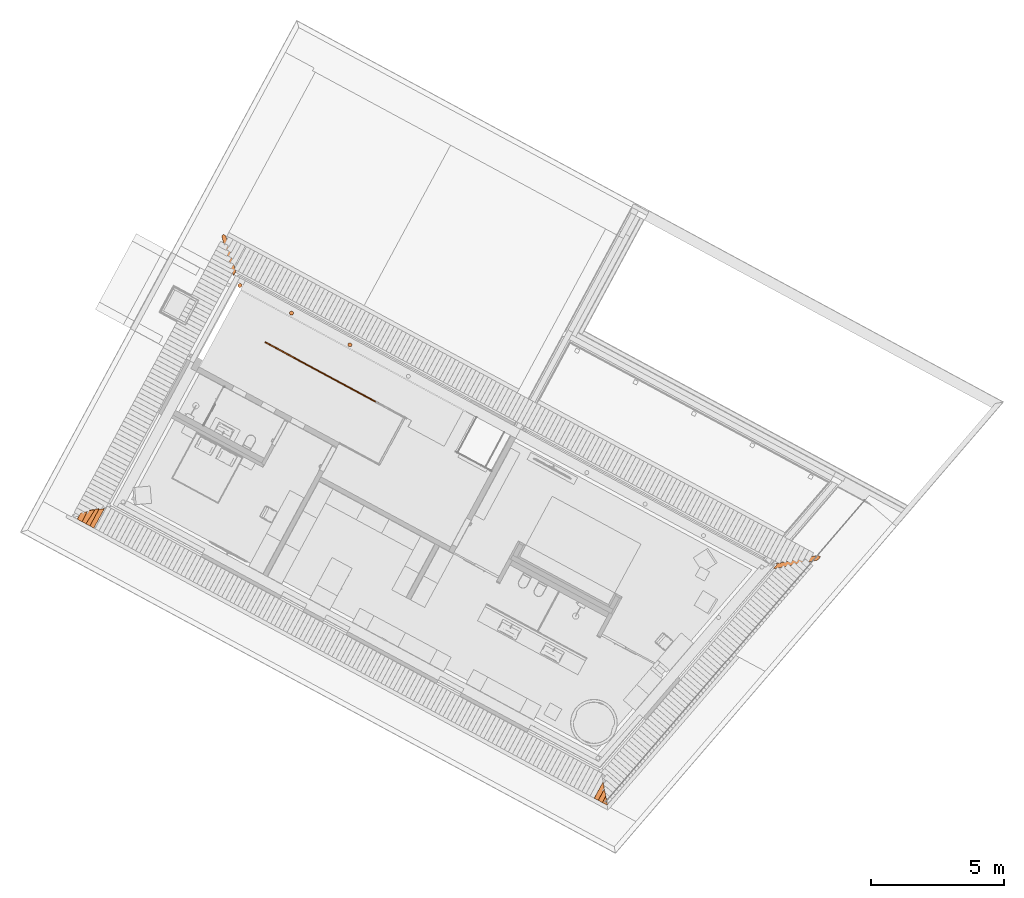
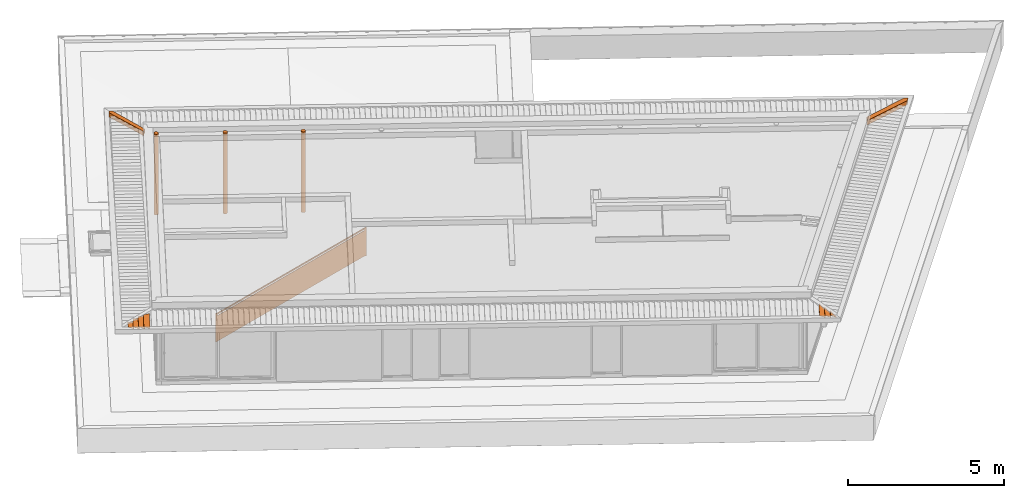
# One storey, part 48 of 48: 13 proxies.
"""IFC2X3 building model written with IfcOpenShell, lengths in metres."""

from ifc_helpers import new_model, entity, si_unit, converted_unit, derived_unit, money_unit, direction, frame, origin_with_axes, place, context, subcontext, project, spatial, faceted_brep, material, material_list, type_object, element, save


model = new_model("IFC2X3")

# Units and contexts
model_context = context("Model", 3, precision=1e-05, world=origin_with_axes(), true_north=direction((0.0, 1.0)))
body_context = subcontext(model_context, "Body", "Model", "MODEL_VIEW")
ifc_project = project(units=[si_unit("LENGTHUNIT", "METRE"), si_unit("AREAUNIT", "SQUARE_METRE"), si_unit("VOLUMEUNIT", "CUBIC_METRE"), converted_unit("PLANEANGLEUNIT", "DEGREE", entity("IfcPlaneAngleMeasure", 0.0174532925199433), si_unit("PLANEANGLEUNIT", "RADIAN"), dimensions=[0, 0, 0, 0, 0, 0, 0]), money_unit("EUR"), converted_unit("TIMEUNIT", "Year", entity("IfcTimeMeasure", 31556926.0), si_unit("TIMEUNIT", "SECOND"), dimensions=[0, 0, 1, 0, 0, 0, 0]), si_unit("MASSUNIT", "GRAM", prefix="KILO"), si_unit("THERMODYNAMICTEMPERATUREUNIT", "DEGREE_CELSIUS"), si_unit("LUMINOUSINTENSITYUNIT", "LUMEN"), si_unit("ENERGYUNIT", "JOULE", prefix="MEGA"), derived_unit("THERMALCONDUCTANCEUNIT", [(si_unit("POWERUNIT", "WATT"), 1), (si_unit("LENGTHUNIT", "METRE"), -1), (si_unit("THERMODYNAMICTEMPERATUREUNIT", "KELVIN"), -1)]), derived_unit("SPECIFICHEATCAPACITYUNIT", [(si_unit("ENERGYUNIT", "JOULE"), 1), (si_unit("MASSUNIT", "GRAM", prefix="KILO"), -1), (si_unit("THERMODYNAMICTEMPERATUREUNIT", "KELVIN"), -1)]), derived_unit("MASSDENSITYUNIT", [(si_unit("MASSUNIT", "GRAM", prefix="KILO"), 1), (si_unit("VOLUMEUNIT", "CUBIC_METRE"), -1)])], contexts=[model_context])

# Site, building, storey
site_placement = place(None, frame((-3.949935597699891, 1.740105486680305, 0.0), z_axis=(0.0, 0.0, 1.0), x_axis=(0.8799804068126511, -0.475009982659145, 0.0)))
site = spatial("IfcSite", under=ifc_project, at=site_placement, Name="Gelände", CompositionType="ELEMENT")
building_placement = place(site_placement, origin_with_axes())
building = spatial("IfcBuilding", under=site, at=building_placement, Name="Gebäude", CompositionType="ELEMENT")
storey_placement = place(building_placement, frame((0.0, 0.0, 4.55), z_axis=(0.0, 0.0, 1.0), x_axis=(1.0, 0.0, 0.0)))
storey = spatial("IfcBuildingStorey", under=building, at=storey_placement, Name="Staffelgeschoss", CompositionType="ELEMENT", Elevation=4.55)

# Proxies
ifc_material_1 = material(Name="ALLGEMEIN - BAUTEIL")
building_element_proxy_type_1 = type_object("IfcBuildingElementProxyType", Name="ALLGEMEIN - BAUTEIL", PredefinedType="NOTDEFINED")
proxy_1_placement = place(storey_placement, frame((4.28713815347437, 1.09692488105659, 2.903466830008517), z_axis=(0.3575193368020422, 0.0, 0.933905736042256), x_axis=(0.933905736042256, 0.0, -0.3575193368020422)))
element("IfcBuildingElementProxy", 1, at=proxy_1_placement, inside=storey, type_object=building_element_proxy_type_1, material=ifc_material_1, Name="Morph-037", context=body_context, shape_type="Brep", body=[
    faceted_brep([(-0.002249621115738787, -0.6982773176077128, 0.009146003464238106), (0.2133564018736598, -0.5370370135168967, -0.000635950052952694), (0.2148913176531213, -0.9669323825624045, 0.0), (0.2133564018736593, -0.5370370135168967, 0.009364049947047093), (0.2148913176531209, -0.9669323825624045, 0.01000000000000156), (0.0, -0.9669000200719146, 0.0), (0.0, -0.9669000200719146, 0.009999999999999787)], [[[0, 1, 2]], [[1, 0, 3]], [[1, 3, 4, 2]], [[5, 0, 2]], [[0, 4, 3]], [[5, 2, 4, 6]], [[0, 5, 6]], [[0, 6, 4]]]),
])
proxy_2_placement = place(storey_placement, frame((4.456730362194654, 1.096952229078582, 2.903466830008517), z_axis=(0.3575193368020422, 0.0, 0.933905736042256), x_axis=(0.933905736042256, 0.0, -0.3575193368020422)))
element("IfcBuildingElementProxy", 2, at=proxy_2_placement, inside=storey, type_object=building_element_proxy_type_1, material=ifc_material_1, Name="Morph-037", context=body_context, shape_type="Brep", body=[
    faceted_brep([(-0.001477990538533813, -0.5084069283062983, 0.009441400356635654), (0.2141280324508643, -0.3471666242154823, -0.000340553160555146), (0.2148913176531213, -0.9669323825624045, 0.0), (0.2571207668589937, -0.3471627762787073, 0.02611799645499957), (0.0, -0.9669000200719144, 0.0), (0.2148913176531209, -0.9669323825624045, 0.01000000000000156), (0.0, -0.9669000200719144, 0.009999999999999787)], [[[0, 1, 2]], [[1, 0, 3]], [[2, 1, 3]], [[4, 0, 2]], [[0, 5, 3]], [[5, 2, 3]], [[0, 4, 6]], [[4, 2, 5, 6]], [[0, 6, 5]]]),
])
proxy_3_placement = place(storey_placement, frame((4.626322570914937, 1.096952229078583, 2.903466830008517), z_axis=(0.3575193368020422, 0.0, 0.933905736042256), x_axis=(0.933905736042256, 0.0, -0.3575193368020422)))
element("IfcBuildingElementProxy", 3, at=proxy_3_placement, inside=storey, type_object=building_element_proxy_type_1, material=ifc_material_1, Name="Morph-037", context=body_context, shape_type="Brep", body=[
    faceted_brep([(-0.0009645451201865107, -0.3820665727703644, 0.009637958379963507), (0.2146414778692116, -0.2208262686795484, -0.000143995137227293), (0.2148913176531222, -0.9669323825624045, 0.0), (0.2146414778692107, -0.2208262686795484, 0.009856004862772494), (0.2148913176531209, -0.9669323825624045, 0.009999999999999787), (0.0, -0.9669000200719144, 0.0), (0.0, -0.9669000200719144, 0.009999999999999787)], [[[0, 1, 2]], [[1, 0, 3]], [[1, 3, 4, 2]], [[5, 0, 2]], [[0, 4, 3]], [[5, 2, 4, 6]], [[0, 5, 6]], [[0, 6, 4]]]),
])
proxy_4_placement = place(storey_placement, frame((4.79591477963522, 1.096924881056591, 2.903466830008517), z_axis=(0.3575193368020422, 0.0, 0.933905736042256), x_axis=(0.933905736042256, 0.0, -0.3575193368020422)))
element("IfcBuildingElementProxy", 4, at=proxy_4_placement, inside=storey, type_object=building_element_proxy_type_1, material=ifc_material_1, Name="Morph-037", context=body_context, shape_type="Brep", body=[
    faceted_brep([(-0.0005884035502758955, -0.289511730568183, 0.009781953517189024), (0.2148913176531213, -0.9669323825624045, 0.0), (0.0, -0.9669000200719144, 0.0), (0.2150176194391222, -0.128271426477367, 0.0), (0.21489131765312, -0.9669323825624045, 0.009999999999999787), (0.0, -0.9669000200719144, 0.00999999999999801), (0.2150176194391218, -0.128271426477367, 0.009999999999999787)], [[[0, 1, 2]], [[1, 0, 3]], [[2, 1, 4, 5]], [[0, 2, 5]], [[3, 0, 6]], [[4, 1, 3, 6]], [[0, 5, 4]], [[0, 4, 6]]]),
])
proxy_5_placement = place(storey_placement, frame((26.40969685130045, 1.096892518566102, 2.903466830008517), z_axis=(0.3575193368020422, 0.0, 0.933905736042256), x_axis=(0.933905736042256, 0.0, -0.3575193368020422)))
element("IfcBuildingElementProxy", 5, at=proxy_5_placement, inside=storey, type_object=building_element_proxy_type_1, material=ifc_material_1, Name="Morph-037", context=body_context, shape_type="Brep", body=[
    faceted_brep([(0.0, -0.2637647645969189, 0.01000000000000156), (0.0, -0.9669000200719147, 0.01000000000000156), (0.2149690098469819, -0.5171427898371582, 0.00997399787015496), (0.003338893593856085, -0.2637647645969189, 0.001278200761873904), (0.2148913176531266, -0.9669323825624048, 0.01000000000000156), (0.2149695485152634, -0.5130417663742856, -2.579591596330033e-05), (0.0, -0.9669000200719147, 0.0), (0.2148913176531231, -0.9669323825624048, 0.0)], [[[0, 1, 2]], [[1, 0, 3]], [[1, 4, 2]], [[0, 2, 5]], [[3, 0, 5]], [[6, 1, 3]], [[1, 6, 7, 4]], [[4, 7, 5, 2]], [[6, 3, 5]], [[7, 6, 5]]]),
])
proxy_6_placement = place(storey_placement, frame((26.58465556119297, 1.096892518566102, 2.903466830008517), z_axis=(0.3575193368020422, 0.0, 0.933905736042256), x_axis=(0.933905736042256, 0.0, -0.3575193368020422)))
element("IfcBuildingElementProxy", 6, at=proxy_6_placement, inside=storey, type_object=building_element_proxy_type_1, material=ifc_material_1, Name="Morph-037", context=body_context, shape_type="Brep", body=[
    faceted_brep([(-0.003338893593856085, -0.4834500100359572, 0.008721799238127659), (0.0, -0.9669000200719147, 0.01000000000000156), (0.2149426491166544, -0.717833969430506, 0.009963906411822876), (0.0, -0.4834500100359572, 0.0), (0.2148913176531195, -0.9669323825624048, 0.01000000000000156), (0.2149426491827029, -0.7178334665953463, -3.609356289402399e-05), (0.0, -0.9669000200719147, 0.0), (0.2148913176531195, -0.9669323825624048, 0.0)], [[[0, 1, 2]], [[1, 0, 3]], [[1, 4, 2]], [[0, 2, 5]], [[3, 0, 5]], [[6, 1, 3]], [[1, 6, 7, 4]], [[2, 4, 5]], [[6, 3, 5]], [[7, 6, 5]], [[4, 7, 5]]]),
])
proxy_7_placement = place(storey_placement, frame((26.75961427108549, 1.096892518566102, 2.903466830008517), z_axis=(0.3575193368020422, 0.0, 0.933905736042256), x_axis=(0.933905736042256, 0.0, -0.3575193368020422)))
element("IfcBuildingElementProxy", 7, at=proxy_7_placement, inside=storey, type_object=building_element_proxy_type_1, material=ifc_material_1, Name="Morph-037", context=body_context, shape_type="Brep", body=[
    faceted_brep([(0.0, -0.6904938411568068, 0.00999999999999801), (0.0, -0.9669000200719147, 0.00999999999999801), (0.2149137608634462, -0.9377678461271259, 0.009952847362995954), (0.0, -0.9669000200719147, 0.0), (0.0, -0.6904938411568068, 0.0), (0.2148913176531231, -0.9669323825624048, 0.01000000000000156), (0.2149137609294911, -0.9377673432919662, -4.715261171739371e-05), (0.2148913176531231, -0.9669323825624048, 0.0)], [[[0, 1, 2]], [[3, 1, 0, 4]], [[1, 5, 2]], [[0, 2, 6]], [[1, 3, 7, 5]], [[4, 0, 6]], [[3, 4, 6]], [[2, 5, 6]], [[7, 3, 6]], [[5, 7, 6]]]),
])
ifc_material_2 = material(Name="Metall, Stahl lackiert")
building_element_proxy_type_2 = type_object("IfcBuildingElementProxyType", Name="Metall, Stahl lackiert D152", PredefinedType="NOTDEFINED")
proxy_8_placement = place(storey_placement, frame((10.20533791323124, 10.78779359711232, -0.1499999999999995), z_axis=(0.0, 0.0, 1.0), x_axis=(1.0, 0.0, 0.0)))
element("IfcBuildingElementProxy", 8, at=proxy_8_placement, inside=storey, type_object=building_element_proxy_type_2, material=ifc_material_2, Name="Stütze-003", context=body_context, shape_type="Brep", body=[
    faceted_brep([(-0.07600000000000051, 0.0, 3.154000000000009), (-0.07600000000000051, 0.0, 0.0), (-0.07228029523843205, -0.02348529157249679, 0.0), (-0.07228029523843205, -0.02348529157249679, 3.154000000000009), (-0.07228029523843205, 0.02348529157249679, 3.154000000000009), (-0.07228029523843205, 0.02348529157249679, 0.0), (-0.06148529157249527, 0.04467167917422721, 0.0), (-0.04467167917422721, 0.06148529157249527, 0.0), (-0.02348529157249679, 0.07228029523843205, 0.0), (0.0, 0.07600000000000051, 0.0), (0.02348529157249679, 0.07228029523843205, 0.0), (0.04467167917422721, 0.06148529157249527, 0.0), (0.06148529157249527, 0.04467167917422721, 0.0), (0.07228029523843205, 0.02348529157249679, 0.0), (0.07600000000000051, 0.0, 0.0), (0.07228029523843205, -0.02348529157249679, 0.0), (0.06148529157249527, -0.04467167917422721, 0.0), (0.04467167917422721, -0.06148529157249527, 0.0), (0.02348529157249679, -0.07228029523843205, 0.0), (0.0, -0.07600000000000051, 0.0), (-0.02348529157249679, -0.07228029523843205, 0.0), (-0.04467167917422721, -0.06148529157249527, 0.0), (-0.06148529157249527, -0.04467167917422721, 0.0), (-0.06148529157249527, -0.04467167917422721, 3.154000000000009), (-0.04467167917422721, -0.06148529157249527, 3.154000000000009), (-0.02348529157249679, -0.07228029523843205, 3.154000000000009), (0.0, -0.07600000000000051, 3.154000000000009), (0.02348529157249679, -0.07228029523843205, 3.154000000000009), (0.04467167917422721, -0.06148529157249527, 3.154000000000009), (0.06148529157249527, -0.04467167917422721, 3.154000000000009), (0.07228029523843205, -0.02348529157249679, 3.154000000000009), (0.07600000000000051, 0.0, 3.154000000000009), (0.07228029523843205, 0.02348529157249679, 3.154000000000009), (0.06148529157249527, 0.04467167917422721, 3.154000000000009), (0.04467167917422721, 0.06148529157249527, 3.154000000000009), (0.02348529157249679, 0.07228029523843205, 3.154000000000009), (0.0, 0.07600000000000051, 3.154000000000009), (-0.02348529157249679, 0.07228029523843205, 3.154000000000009), (-0.04467167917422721, 0.06148529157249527, 3.154000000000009), (-0.06148529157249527, 0.04467167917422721, 3.154000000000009)], [[[0, 1, 2, 3]], [[4, 5, 1, 0]], [[2, 1, 5, 6, 7, 8, 9, 10, 11, 12, 13, 14, 15, 16, 17, 18, 19, 20, 21, 22]], [[3, 2, 22, 23]], [[4, 0, 3, 23, 24, 25, 26, 27, 28, 29, 30, 31, 32, 33, 34, 35, 36, 37, 38, 39]], [[39, 6, 5, 4]], [[38, 7, 6, 39]], [[37, 8, 7, 38]], [[36, 9, 8, 37]], [[35, 10, 9, 36]], [[34, 11, 10, 35]], [[33, 12, 11, 34]], [[32, 13, 12, 33]], [[31, 14, 13, 32]], [[30, 15, 14, 31]], [[29, 16, 15, 30]], [[28, 17, 16, 29]], [[27, 18, 17, 28]], [[26, 19, 18, 27]], [[25, 20, 19, 26]], [[24, 21, 20, 25]], [[23, 22, 21, 24]]]),
])
proxy_9_placement = place(storey_placement, frame((7.70533791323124, 10.78779359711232, -0.1499999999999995), z_axis=(0.0, 0.0, 1.0), x_axis=(1.0, 0.0, 0.0)))
element("IfcBuildingElementProxy", 9, at=proxy_9_placement, inside=storey, type_object=building_element_proxy_type_2, material=ifc_material_2, Name="Stütze-003", context=body_context, shape_type="Brep", body=[
    faceted_brep([(-0.07599999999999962, 0.0, 3.154000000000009), (-0.07599999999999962, 0.0, 0.0), (-0.07228029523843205, -0.02348529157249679, 0.0), (-0.07228029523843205, -0.02348529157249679, 3.154000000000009), (-0.07228029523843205, 0.02348529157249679, 3.154000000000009), (-0.07228029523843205, 0.02348529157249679, 0.0), (-0.06148529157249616, 0.04467167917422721, 0.0), (-0.0446716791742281, 0.06148529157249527, 0.0), (-0.0234852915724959, 0.07228029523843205, 0.0), (0.0, 0.07600000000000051, 0.0), (0.0234852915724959, 0.07228029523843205, 0.0), (0.0446716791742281, 0.06148529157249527, 0.0), (0.06148529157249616, 0.04467167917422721, 0.0), (0.07228029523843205, 0.02348529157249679, 0.0), (0.07599999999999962, 0.0, 0.0), (0.07228029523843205, -0.02348529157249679, 0.0), (0.06148529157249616, -0.04467167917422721, 0.0), (0.0446716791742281, -0.06148529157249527, 0.0), (0.0234852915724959, -0.07228029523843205, 0.0), (0.0, -0.07600000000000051, 0.0), (-0.0234852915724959, -0.07228029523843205, 0.0), (-0.0446716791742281, -0.06148529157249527, 0.0), (-0.06148529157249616, -0.04467167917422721, 0.0), (-0.06148529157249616, -0.04467167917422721, 3.154000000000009), (-0.0446716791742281, -0.06148529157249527, 3.154000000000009), (-0.0234852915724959, -0.07228029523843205, 3.154000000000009), (0.0, -0.07600000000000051, 3.154000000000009), (0.0234852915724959, -0.07228029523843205, 3.154000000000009), (0.0446716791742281, -0.06148529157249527, 3.154000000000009), (0.06148529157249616, -0.04467167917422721, 3.154000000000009), (0.07228029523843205, -0.02348529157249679, 3.154000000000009), (0.07599999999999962, 0.0, 3.154000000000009), (0.07228029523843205, 0.02348529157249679, 3.154000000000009), (0.06148529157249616, 0.04467167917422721, 3.154000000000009), (0.0446716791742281, 0.06148529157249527, 3.154000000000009), (0.0234852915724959, 0.07228029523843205, 3.154000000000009), (0.0, 0.07600000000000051, 3.154000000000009), (-0.0234852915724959, 0.07228029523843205, 3.154000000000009), (-0.0446716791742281, 0.06148529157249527, 3.154000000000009), (-0.06148529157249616, 0.04467167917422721, 3.154000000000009)], [[[0, 1, 2, 3]], [[4, 5, 1, 0]], [[2, 1, 5, 6, 7, 8, 9, 10, 11, 12, 13, 14, 15, 16, 17, 18, 19, 20, 21, 22]], [[3, 2, 22, 23]], [[4, 0, 3, 23, 24, 25, 26, 27, 28, 29, 30, 31, 32, 33, 34, 35, 36, 37, 38, 39]], [[39, 6, 5, 4]], [[38, 7, 6, 39]], [[37, 8, 7, 38]], [[36, 9, 8, 37]], [[35, 10, 9, 36]], [[34, 11, 10, 35]], [[33, 12, 11, 34]], [[32, 13, 12, 33]], [[31, 14, 13, 32]], [[30, 15, 14, 31]], [[29, 16, 15, 30]], [[28, 17, 16, 29]], [[27, 18, 17, 28]], [[26, 19, 18, 27]], [[25, 20, 19, 26]], [[24, 21, 20, 25]], [[23, 22, 21, 24]]]),
])
proxy_10_placement = place(storey_placement, frame((5.497480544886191, 10.78779359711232, -0.1499999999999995), z_axis=(0.0, 0.0, 1.0), x_axis=(1.0, 0.0, 0.0)))
element("IfcBuildingElementProxy", 10, at=proxy_10_placement, inside=storey, type_object=building_element_proxy_type_2, material=ifc_material_2, Name="Stütze-003", context=body_context, shape_type="Brep", body=[
    faceted_brep([(-0.07599999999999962, 0.0, 3.154000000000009), (-0.07599999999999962, 0.0, 0.0), (-0.07228029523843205, -0.02348529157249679, 0.0), (-0.07228029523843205, -0.02348529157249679, 3.154000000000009), (-0.07228029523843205, 0.02348529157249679, 3.154000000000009), (-0.07228029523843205, 0.02348529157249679, 0.0), (-0.06148529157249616, 0.04467167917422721, 0.0), (-0.0446716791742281, 0.06148529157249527, 0.0), (-0.0234852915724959, 0.07228029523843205, 0.0), (0.0, 0.07600000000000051, 0.0), (0.0234852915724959, 0.07228029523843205, 0.0), (0.0446716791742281, 0.06148529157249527, 0.0), (0.06148529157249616, 0.04467167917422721, 0.0), (0.07228029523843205, 0.02348529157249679, 0.0), (0.07599999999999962, 0.0, 0.0), (0.07228029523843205, -0.02348529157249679, 0.0), (0.06148529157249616, -0.04467167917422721, 0.0), (0.0446716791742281, -0.06148529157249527, 0.0), (0.0234852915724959, -0.07228029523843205, 0.0), (0.0, -0.07600000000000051, 0.0), (-0.0234852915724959, -0.07228029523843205, 0.0), (-0.0446716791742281, -0.06148529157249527, 0.0), (-0.06148529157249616, -0.04467167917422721, 0.0), (-0.06148529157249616, -0.04467167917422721, 3.154000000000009), (-0.0446716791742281, -0.06148529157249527, 3.154000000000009), (-0.0234852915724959, -0.07228029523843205, 3.154000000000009), (0.0, -0.07600000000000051, 3.154000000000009), (0.0234852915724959, -0.07228029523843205, 3.154000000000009), (0.0446716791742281, -0.06148529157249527, 3.154000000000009), (0.06148529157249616, -0.04467167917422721, 3.154000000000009), (0.07228029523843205, -0.02348529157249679, 3.154000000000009), (0.07599999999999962, 0.0, 3.154000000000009), (0.07228029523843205, 0.02348529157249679, 3.154000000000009), (0.06148529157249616, 0.04467167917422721, 3.154000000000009), (0.0446716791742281, 0.06148529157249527, 3.154000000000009), (0.0234852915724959, 0.07228029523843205, 3.154000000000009), (0.0, 0.07600000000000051, 3.154000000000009), (-0.0234852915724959, 0.07228029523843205, 3.154000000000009), (-0.0446716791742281, 0.06148529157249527, 3.154000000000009), (-0.06148529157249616, 0.04467167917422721, 3.154000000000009)], [[[0, 1, 2, 3]], [[4, 5, 1, 0]], [[2, 1, 5, 6, 7, 8, 9, 10, 11, 12, 13, 14, 15, 16, 17, 18, 19, 20, 21, 22]], [[3, 2, 22, 23]], [[4, 0, 3, 23, 24, 25, 26, 27, 28, 29, 30, 31, 32, 33, 34, 35, 36, 37, 38, 39]], [[39, 6, 5, 4]], [[38, 7, 6, 39]], [[37, 8, 7, 38]], [[36, 9, 8, 37]], [[35, 10, 9, 36]], [[34, 11, 10, 35]], [[33, 12, 11, 34]], [[32, 13, 12, 33]], [[31, 14, 13, 32]], [[30, 15, 14, 31]], [[29, 16, 15, 30]], [[28, 17, 16, 29]], [[27, 18, 17, 28]], [[26, 19, 18, 27]], [[25, 20, 19, 26]], [[24, 21, 20, 25]], [[23, 22, 21, 24]]]),
])
ifc_material_3 = material(Name="Glas, Normalglas-50% durchlässig")
ifc_material_list_1 = material_list([ifc_material_2, ifc_material_2, ifc_material_2, ifc_material_2, ifc_material_2, ifc_material_3])
building_element_proxy_type_3 = type_object("IfcBuildingElementProxyType", Name="Geländerart", PredefinedType="NOTDEFINED")
proxy_11_placement = place(storey_placement, frame((7.1514093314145, 9.357791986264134, -4.170822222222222), z_axis=(0.0, 0.0, 1.0), x_axis=(1.0, 0.0, 0.0)))
element("IfcBuildingElementProxy", 11, at=proxy_11_placement, inside=storey, type_object=building_element_proxy_type_3, material=ifc_material_list_1, Name="Geländer-005", context=body_context, shape_type="Brep", body=[
    faceted_brep([(0.2685803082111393, -0.01999975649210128, 0.01372528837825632), (0.2685798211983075, 0.02000024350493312, 0.01372528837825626), (0.2685798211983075, 0.02000024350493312, 1.113725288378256), (0.2685803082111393, -0.01999975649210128, 1.113725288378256), (0.2285803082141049, -0.02000024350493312, -0.01372528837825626), (0.2285798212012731, 0.01999975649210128, -0.01372528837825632), (0.2285798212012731, 0.01999975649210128, 1.086274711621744), (0.2285803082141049, -0.02000024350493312, 1.086274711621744)], [[[0, 1, 2, 3]], [[0, 4, 5, 1]], [[1, 5, 6, 2]], [[3, 2, 6, 7]], [[4, 0, 3, 7]], [[5, 4, 7, 6]]]),
    faceted_brep([(0.2485798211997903, 0.01999999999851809, 1.1), (0.2609850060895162, 0.02000015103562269, 1.06), (0.2385798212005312, 0.01999987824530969, 1.06), (0.2385798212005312, 0.01999987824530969, 0.0), (0.1985798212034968, 0.01999939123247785, 0.0), (0.1985798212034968, 0.01999939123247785, 1.1), (0.2485803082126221, -0.01999999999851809, 1.1), (0.2609854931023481, -0.01999984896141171, 1.06), (0.2385803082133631, -0.02000012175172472, 1.06), (0.2385803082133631, -0.02000012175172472, 0.0), (0.1985803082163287, -0.02000060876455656, 0.0), (0.1985803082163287, -0.02000060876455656, 1.1)], [[[0, 1, 2, 3, 4, 5]], [[0, 6, 7, 1]], [[1, 7, 8, 2]], [[2, 8, 9, 3]], [[4, 3, 9, 10]], [[11, 5, 4, 10]], [[6, 0, 5, 11]], [[7, 6, 11, 10, 9, 8]]]),
    faceted_brep([(5.005562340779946, -0.01994208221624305, 3.264547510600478), (5.005561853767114, 0.02005791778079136, 3.264547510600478), (5.005561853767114, 0.02005791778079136, 4.364547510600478), (5.005562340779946, -0.01994208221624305, 4.364547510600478), (4.965562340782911, -0.01994256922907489, 3.237096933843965), (4.96556185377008, 0.02005743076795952, 3.237096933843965), (4.96556185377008, 0.02005743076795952, 4.337096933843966), (4.965562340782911, -0.01994256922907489, 4.337096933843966)], [[[0, 1, 2, 3]], [[0, 4, 5, 1]], [[1, 5, 6, 2]], [[3, 2, 6, 7]], [[4, 0, 3, 7]], [[5, 4, 7, 6]]]),
    faceted_brep([(4.98556234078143, -0.01994232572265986, 4.350822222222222), (4.997967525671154, -0.01994217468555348, 4.310822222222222), (4.995562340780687, -0.01994220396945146, 4.310822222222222), (4.995562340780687, -0.01994220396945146, 3.250822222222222), (5.035562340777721, -0.01994171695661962, 3.250822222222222), (5.035562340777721, -0.01994171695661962, 4.350822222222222), (4.985561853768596, 0.02005767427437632, 4.350822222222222), (4.997967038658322, 0.02005782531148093, 4.310822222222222), (4.995561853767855, 0.02005779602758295, 4.310822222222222), (4.995561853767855, 0.02005779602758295, 3.250822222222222), (5.035561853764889, 0.02005828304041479, 3.250822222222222), (5.035561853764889, 0.02005828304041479, 4.350822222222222)], [[[0, 1, 2, 3, 4, 5]], [[0, 6, 7, 1]], [[1, 7, 8, 2]], [[2, 8, 9, 3]], [[4, 3, 9, 10]], [[11, 5, 4, 10]], [[6, 0, 5, 11]], [[7, 6, 11, 10, 9, 8]]]),
    faceted_brep([(0.2485803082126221, -0.01999999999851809, 1.1), (0.2609854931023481, -0.01999984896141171, 1.06), (4.997967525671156, -0.01994217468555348, 4.310822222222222), (4.98556234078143, -0.01994232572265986, 4.350822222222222), (0.2485798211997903, 0.01999999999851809, 1.1), (0.2609850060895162, 0.02000015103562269, 1.06), (4.997967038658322, 0.02005782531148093, 4.310822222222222), (4.985561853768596, 0.02005767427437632, 4.350822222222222)], [[[0, 1, 2, 3]], [[0, 4, 5, 1]], [[1, 5, 6, 2]], [[3, 2, 6, 7]], [[4, 0, 3, 7]], [[5, 4, 7, 6]]]),
    faceted_brep([(4.985561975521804, 0.01005767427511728, 3.250822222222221), (0.2485799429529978, 0.009999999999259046, 0.0), (0.2485799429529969, 0.009999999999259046, 0.9999999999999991), (4.985561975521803, 0.01005767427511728, 4.250822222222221), (0.2485801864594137, -0.009999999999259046, 0.0), (4.985562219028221, -0.009942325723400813, 3.250822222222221), (0.2485801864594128, -0.009999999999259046, 0.9999999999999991), (4.985562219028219, -0.009942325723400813, 4.250822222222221)], [[[0, 1, 2, 3]], [[4, 1, 0, 5]], [[6, 2, 1, 4]], [[3, 2, 6, 7]], [[0, 3, 7, 5]], [[6, 4, 5, 7]]]),
])
ifc_material_4 = material(Name="Beton, Leichtbeton")
ifc_material_5 = material(Name="Kleber")
ifc_material_6 = material(Name="Estrich")
ifc_material_7 = material(Name="Dämmung, hart EPS")
ifc_material_list_2 = material_list([ifc_material_4, ifc_material_5, ifc_material_6, ifc_material_7])
building_element_proxy_type_4 = type_object("IfcBuildingElementProxyType", Name="BO | Dämmung 8+Folie+Estrich 7+Fliese 0,5 | 16cm 170", PredefinedType="NOTDEFINED")
proxy_12_placement = place(storey_placement, frame((28.23115328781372, 11.14280060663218, 2.75), z_axis=(0.0, 0.0, 1.0), x_axis=(1.0, 0.0, 0.0)))
element("IfcBuildingElementProxy", 12, at=proxy_12_placement, inside=storey, type_object=building_element_proxy_type_4, material=ifc_material_list_2, Name="Decke055", context=body_context, shape_type="Brep", body=[
    faceted_brep([(0.05821938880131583, 0.0, 0.1600000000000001), (0.05821938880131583, 0.0, 0.1699999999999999), (0.0, 0.0, 0.1699999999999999), (0.0, 0.0, 0.1600000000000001), (0.01235594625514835, -0.2099893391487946, 0.1600000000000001), (0.01235594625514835, -0.2099893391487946, 0.1699999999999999), (1.329367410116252, 0.8777926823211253, 0.1699999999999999), (1.364410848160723, 1.038242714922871, 0.1699999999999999), (1.243079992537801, 1.038242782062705, 0.1699999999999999), (1.243079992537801, 1.038242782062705, 0.1600000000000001), (1.364410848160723, 1.038242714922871, 0.1600000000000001), (1.329367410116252, 0.8777926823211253, 0.1600000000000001)], [[[0, 1, 2, 3]], [[4, 5, 1, 0]], [[2, 1, 5, 6, 7, 8]], [[3, 2, 8, 9]], [[3, 9, 10, 11, 4, 0]], [[11, 6, 5, 4]], [[10, 7, 6, 11]], [[9, 8, 7, 10]]]),
    faceted_brep([(0.05821938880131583, 0.0, 0.1500000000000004), (0.05821938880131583, 0.0, 0.1600000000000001), (0.0, 0.0, 0.1600000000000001), (0.0, 0.0, 0.1500000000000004), (0.01235594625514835, -0.2099893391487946, 0.1500000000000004), (0.01235594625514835, -0.2099893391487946, 0.1600000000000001), (1.329367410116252, 0.8777926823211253, 0.1600000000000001), (1.364410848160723, 1.038242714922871, 0.1600000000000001), (1.243079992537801, 1.038242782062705, 0.1600000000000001), (1.243079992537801, 1.038242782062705, 0.1500000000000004), (1.364410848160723, 1.038242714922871, 0.1500000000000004), (1.329367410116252, 0.8777926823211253, 0.1500000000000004)], [[[0, 1, 2, 3]], [[4, 5, 1, 0]], [[2, 1, 5, 6, 7, 8]], [[3, 2, 8, 9]], [[3, 9, 10, 11, 4, 0]], [[11, 6, 5, 4]], [[10, 7, 6, 11]], [[9, 8, 7, 10]]]),
    faceted_brep([(0.05821938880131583, 0.0, 0.08000000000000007), (0.05821938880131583, 0.0, 0.1500000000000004), (0.0, 0.0, 0.1500000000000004), (0.0, 0.0, 0.08000000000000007), (0.01235594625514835, -0.2099893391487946, 0.08000000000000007), (0.01235594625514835, -0.2099893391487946, 0.1500000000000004), (1.329367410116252, 0.8777926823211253, 0.1500000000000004), (1.364410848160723, 1.038242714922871, 0.1500000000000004), (1.243079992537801, 1.038242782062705, 0.1500000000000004), (1.243079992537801, 1.038242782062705, 0.08000000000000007), (1.364410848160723, 1.038242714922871, 0.08000000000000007), (1.329367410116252, 0.8777926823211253, 0.08000000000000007)], [[[0, 1, 2, 3]], [[4, 5, 1, 0]], [[2, 1, 5, 6, 7, 8]], [[3, 2, 8, 9]], [[3, 9, 10, 11, 4, 0]], [[11, 6, 5, 4]], [[10, 7, 6, 11]], [[9, 8, 7, 10]]]),
    faceted_brep([(0.0, 0.0, 0.0), (0.05821938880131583, 0.0, 0.0), (0.05821938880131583, 0.0, 0.08000000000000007), (0.0, 0.0, 0.08000000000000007), (1.243079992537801, 1.038242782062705, 0.0), (1.364410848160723, 1.038242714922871, 0.0), (1.329367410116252, 0.8777926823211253, 0.0), (0.01235594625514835, -0.2099893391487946, 0.0), (0.01235594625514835, -0.2099893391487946, 0.08000000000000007), (1.329367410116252, 0.8777926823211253, 0.08000000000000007), (1.364410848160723, 1.038242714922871, 0.08000000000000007), (1.243079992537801, 1.038242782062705, 0.08000000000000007)], [[[0, 1, 2, 3]], [[0, 4, 5, 6, 7, 1]], [[1, 7, 8, 2]], [[3, 2, 8, 9, 10, 11]], [[4, 0, 3, 11]], [[5, 4, 11, 10]], [[6, 5, 10, 9]], [[7, 6, 9, 8]]]),
])
proxy_13_placement = place(storey_placement, frame((4.135622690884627, 12.18105763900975, 2.75), z_axis=(0.0, 0.0, 1.0), x_axis=(1.0, 0.0, 0.0)))
element("IfcBuildingElementProxy", 13, at=proxy_13_placement, inside=storey, type_object=building_element_proxy_type_4, material=ifc_material_list_2, Name="Decke056", context=body_context, shape_type="Brep", body=[
    faceted_brep([(-0.1117475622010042, 6.183680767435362e-08, 0.1600000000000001), (-0.1117475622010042, 6.183680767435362e-08, 0.1699999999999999), (0.0, 0.0, 0.1699999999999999), (0.0, 0.0, 0.1600000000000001), (-0.1110475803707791, -0.1025124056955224, 0.1600000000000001), (-0.1110475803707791, -0.1025124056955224, 0.1699999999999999), (0.9768586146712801, -1.19041860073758, 0.1699999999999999), (0.9768586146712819, -1.03825608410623, 0.1699999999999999), (1.007835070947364, -1.03825608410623, 0.1699999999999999), (1.007835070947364, -1.03825608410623, 0.1600000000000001), (0.9768586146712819, -1.03825608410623, 0.1600000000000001), (0.9768586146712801, -1.19041860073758, 0.1600000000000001)], [[[0, 1, 2, 3]], [[4, 5, 1, 0]], [[2, 1, 5, 6, 7, 8]], [[3, 2, 8, 9]], [[3, 9, 10, 11, 4, 0]], [[11, 6, 5, 4]], [[10, 7, 6, 11]], [[9, 8, 7, 10]]]),
    faceted_brep([(-0.1117475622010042, 6.183680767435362e-08, 0.1500000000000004), (-0.1117475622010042, 6.183680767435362e-08, 0.1600000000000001), (0.0, 0.0, 0.1600000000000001), (0.0, 0.0, 0.1500000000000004), (-0.1110475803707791, -0.1025124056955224, 0.1500000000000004), (-0.1110475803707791, -0.1025124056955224, 0.1600000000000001), (0.9768586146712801, -1.19041860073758, 0.1600000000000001), (0.9768586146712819, -1.03825608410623, 0.1600000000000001), (1.007835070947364, -1.03825608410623, 0.1600000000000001), (1.007835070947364, -1.03825608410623, 0.1500000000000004), (0.9768586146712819, -1.03825608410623, 0.1500000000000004), (0.9768586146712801, -1.19041860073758, 0.1500000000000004)], [[[0, 1, 2, 3]], [[4, 5, 1, 0]], [[2, 1, 5, 6, 7, 8]], [[3, 2, 8, 9]], [[3, 9, 10, 11, 4, 0]], [[11, 6, 5, 4]], [[10, 7, 6, 11]], [[9, 8, 7, 10]]]),
    faceted_brep([(-0.1117475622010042, 6.183680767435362e-08, 0.08000000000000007), (-0.1117475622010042, 6.183680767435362e-08, 0.1500000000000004), (0.0, 0.0, 0.1500000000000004), (0.0, 0.0, 0.08000000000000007), (-0.1110475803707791, -0.1025124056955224, 0.08000000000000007), (-0.1110475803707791, -0.1025124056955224, 0.1500000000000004), (0.9768586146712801, -1.19041860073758, 0.1500000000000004), (0.9768586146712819, -1.03825608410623, 0.1500000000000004), (1.007835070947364, -1.03825608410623, 0.1500000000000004), (1.007835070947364, -1.03825608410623, 0.08000000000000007), (0.9768586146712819, -1.03825608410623, 0.08000000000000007), (0.9768586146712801, -1.19041860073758, 0.08000000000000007)], [[[0, 1, 2, 3]], [[4, 5, 1, 0]], [[2, 1, 5, 6, 7, 8]], [[3, 2, 8, 9]], [[3, 9, 10, 11, 4, 0]], [[11, 6, 5, 4]], [[10, 7, 6, 11]], [[9, 8, 7, 10]]]),
    faceted_brep([(0.0, 0.0, 0.0), (-0.1117475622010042, 6.183680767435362e-08, 0.0), (-0.1117475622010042, 6.183680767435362e-08, 0.08000000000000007), (0.0, 0.0, 0.08000000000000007), (1.007835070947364, -1.03825608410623, 0.0), (0.9768586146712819, -1.03825608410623, 0.0), (0.9768586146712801, -1.19041860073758, 0.0), (-0.1110475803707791, -0.1025124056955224, 0.0), (-0.1110475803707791, -0.1025124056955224, 0.08000000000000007), (0.9768586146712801, -1.19041860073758, 0.08000000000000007), (0.9768586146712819, -1.03825608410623, 0.08000000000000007), (1.007835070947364, -1.03825608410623, 0.08000000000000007)], [[[0, 1, 2, 3]], [[0, 4, 5, 6, 7, 1]], [[1, 7, 8, 2]], [[3, 2, 8, 9, 10, 11]], [[4, 0, 3, 11]], [[5, 4, 11, 10]], [[6, 5, 10, 9]], [[7, 6, 9, 8]]]),
])

save(model, "model.ifc")
